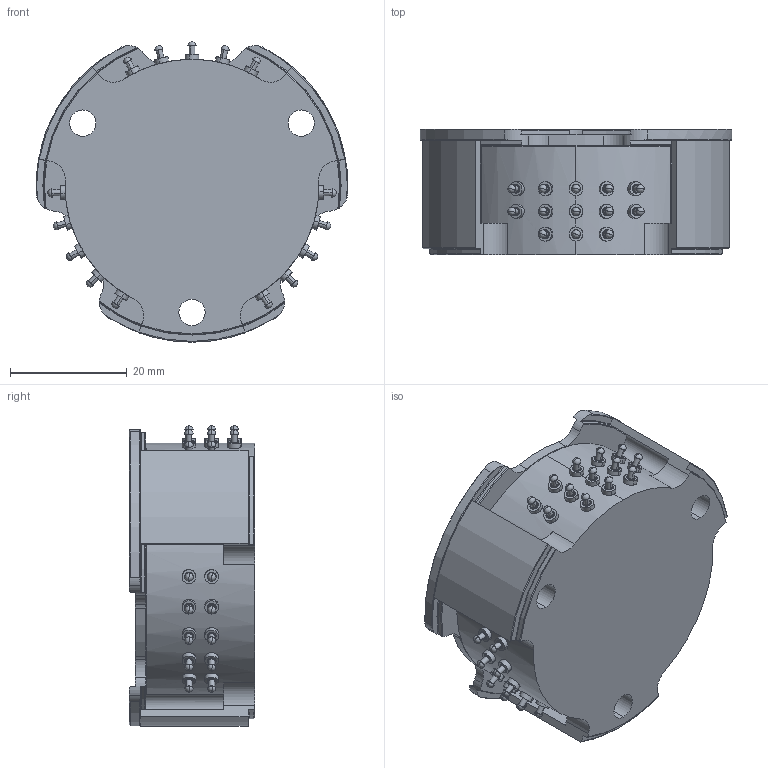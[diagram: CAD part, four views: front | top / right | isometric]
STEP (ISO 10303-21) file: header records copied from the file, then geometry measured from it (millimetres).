
FILE_DESCRIPTION (( 'STEP AP214' ), '1' );
FILE_NAME ('1008449.STEP', '2022-08-19T11:00:33', ( '' ), ( '' ), 'SwSTEP 2.0', 'SolidWorks 2021', '' );
FILE_SCHEMA (( 'AUTOMOTIVE_DESIGN' ));
Length unit declared in the file: inch
Products named in the file (1): 1008449
Bounding box: 53.31 x 21.46 x 51.38 mm (x, y, z)
Volume: 33666.3 mm3; surface area: 11190.7 mm2
Topology: 1 solids, 34 shells, 3438 faces, 9870 edges, 6563 vertices
Faces by surface type: plane 2819, cylinder 441, sphere 66, bspline 66, cone 31, torus 15
Entity records: 118427 total; most frequent: CARTESIAN_POINT 35810, ORIENTED_EDGE 19476, DIRECTION 14875, EDGE_CURVE 9738, VERTEX_POINT 6497, VECTOR 5143, LINE 5143, AXIS2_PLACEMENT_3D 4866
